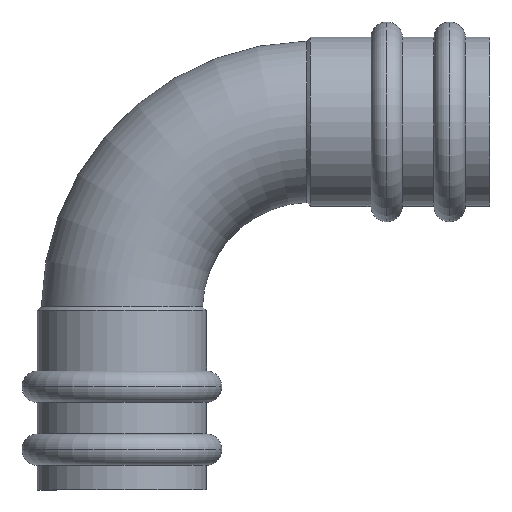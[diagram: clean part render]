
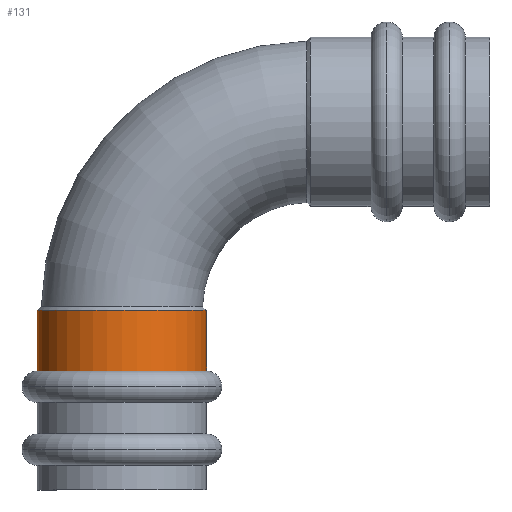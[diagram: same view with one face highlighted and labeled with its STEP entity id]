
A CAD part, front view. The second image highlights one B-rep face of the part: STEP entity #131.
In plain terms, the highlighted cylindrical face has radius 18.85 mm (diameter 37.7 mm), a partial arc.
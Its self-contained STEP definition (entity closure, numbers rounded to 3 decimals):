
#131=ADVANCED_FACE('',(#307),#308,.T.);
#307=FACE_OUTER_BOUND('',#543,.T.);
#308=CYLINDRICAL_SURFACE('',#544,18.85);
#543=EDGE_LOOP('',(#863,#864,#865,#866));
#544=AXIS2_PLACEMENT_3D('',#867,#868,#869);
#863=ORIENTED_EDGE('',*,*,#1356,.F.);
#864=ORIENTED_EDGE('',*,*,#1357,.T.);
#865=ORIENTED_EDGE('',*,*,#1358,.F.);
#866=ORIENTED_EDGE('',*,*,#1359,.F.);
#867=CARTESIAN_POINT('',(0.,0.0,33.25));
#868=DIRECTION('',(0.,0.0,-1.0));
#869=DIRECTION('',(1.0,0.0,0.));
#1356=EDGE_CURVE('',#1611,#1612,#1613,.T.);
#1357=EDGE_CURVE('',#1611,#1614,#1615,.T.);
#1358=EDGE_CURVE('',#1616,#1614,#1617,.T.);
#1359=EDGE_CURVE('',#1612,#1616,#1618,.T.);
#1611=VERTEX_POINT('',#2076);
#1612=VERTEX_POINT('',#2077);
#1613=LINE('',#2078,#2079);
#1614=VERTEX_POINT('',#2080);
#1615=CIRCLE('',#2081,18.85);
#1616=VERTEX_POINT('',#2082);
#1617=LINE('',#2083,#2084);
#1618=CIRCLE('',#2085,18.85);
#2076=CARTESIAN_POINT('',(18.85,0.,40.));
#2077=CARTESIAN_POINT('',(18.85,0.,26.5));
#2078=CARTESIAN_POINT('',(18.85,0.,33.25));
#2079=VECTOR('',#2596,1.0);
#2080=CARTESIAN_POINT('',(-18.85,0.,40.));
#2081=AXIS2_PLACEMENT_3D('',#2597,#2598,#2599);
#2082=CARTESIAN_POINT('',(-18.85,0.,26.5));
#2083=CARTESIAN_POINT('',(-18.85,0.,33.25));
#2084=VECTOR('',#2600,1.0);
#2085=AXIS2_PLACEMENT_3D('',#2601,#2602,#2603);
#2596=DIRECTION('',(0.,0.0,-1.0));
#2597=CARTESIAN_POINT('',(0.,0.0,40.));
#2598=DIRECTION('',(0.,0.0,-1.0));
#2599=DIRECTION('',(1.0,0.0,0.));
#2600=DIRECTION('',(0.,-0.0,1.0));
#2601=CARTESIAN_POINT('',(0.,0.0,26.5));
#2602=DIRECTION('',(0.,0.0,-1.0));
#2603=DIRECTION('',(1.0,0.0,0.));
